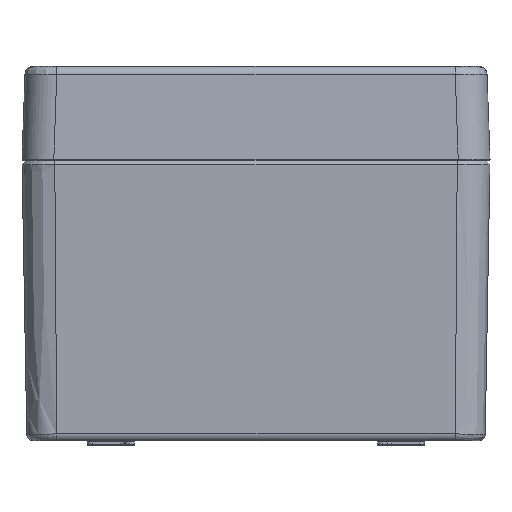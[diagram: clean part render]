
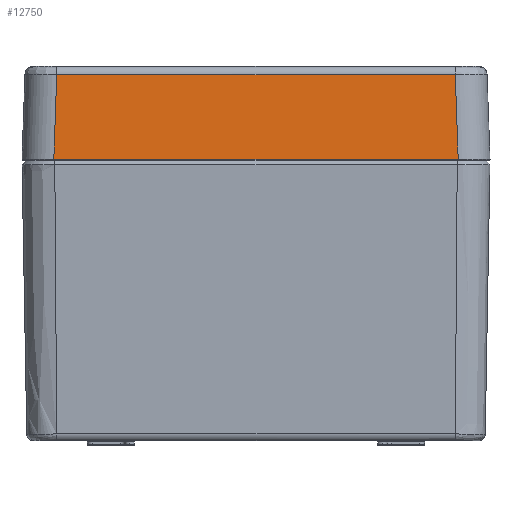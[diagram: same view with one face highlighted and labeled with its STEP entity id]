
A CAD part, left-side view. The second image highlights one B-rep face of the part: STEP entity #12750.
In plain terms, the highlighted planar face has unit normal (-0.999, 0, 0.035).
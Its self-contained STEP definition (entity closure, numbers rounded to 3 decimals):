
#236 = ORIENTED_EDGE ( 'NONE', *, *, #11024, .F. ) ;
#722 = ORIENTED_EDGE ( 'NONE', *, *, #1595, .T. ) ;
#744 = VERTEX_POINT ( 'NONE', #23124 ) ;
#1590 = DIRECTION ( 'NONE',  ( -0.999, 0., 0.035 ) ) ;
#1595 = EDGE_CURVE ( 'NONE', #744, #21366, #9349, .T. ) ;
#3633 = PLANE ( 'NONE',  #9264 ) ;
#4383 = DIRECTION ( 'NONE',  ( -0.035, 0.035, -0.999 ) ) ;
#5839 = DIRECTION ( 'NONE',  ( 0.035, 0., 0.999 ) ) ;
#6196 = CARTESIAN_POINT ( 'NONE',  ( -79.651, -42.855, 10. ) ) ;
#6464 = CARTESIAN_POINT ( 'NONE',  ( -79.993, 0., 0.207 ) ) ;
#6843 = VERTEX_POINT ( 'NONE', #9504 ) ;
#6918 = VECTOR ( 'NONE', #4383, 1000. ) ;
#6929 = CARTESIAN_POINT ( 'NONE',  ( -79.993, -43.197, 0.207 ) ) ;
#7259 = LINE ( 'NONE', #9526, #21510 ) ;
#8247 = CARTESIAN_POINT ( 'NONE',  ( -79.362, 42.566, 18.263 ) ) ;
#8640 = LINE ( 'NONE', #6196, #11474 ) ;
#9264 = AXIS2_PLACEMENT_3D ( 'NONE', #23982, #1590, #5839 ) ;
#9349 = LINE ( 'NONE', #6464, #15349 ) ;
#9504 = CARTESIAN_POINT ( 'NONE',  ( -79.362, -42.566, 18.263 ) ) ;
#9526 = CARTESIAN_POINT ( 'NONE',  ( -79.362, 0.083, 18.263 ) ) ;
#9999 = ORIENTED_EDGE ( 'NONE', *, *, #11975, .T. ) ;
#11024 = EDGE_CURVE ( 'NONE', #14513, #6843, #7259, .T. ) ;
#11474 = VECTOR ( 'NONE', #12348, 1000. ) ;
#11975 = EDGE_CURVE ( 'NONE', #14513, #744, #18948, .T. ) ;
#12348 = DIRECTION ( 'NONE',  ( -0.035, -0.035, -0.999 ) ) ;
#12750 = ADVANCED_FACE ( 'NONE', ( #20169 ), #3633, .T. ) ;
#14405 = EDGE_LOOP ( 'NONE', ( #9999, #722, #22929, #236 ) ) ;
#14513 = VERTEX_POINT ( 'NONE', #16478 ) ;
#15349 = VECTOR ( 'NONE', #21827, 1000. ) ;
#16478 = CARTESIAN_POINT ( 'NONE',  ( -79.362, 42.566, 18.263 ) ) ;
#17973 = EDGE_CURVE ( 'NONE', #6843, #21366, #8640, .T. ) ;
#18948 = LINE ( 'NONE', #8247, #6918 ) ;
#20169 = FACE_OUTER_BOUND ( 'NONE', #14405, .T. ) ;
#21366 = VERTEX_POINT ( 'NONE', #6929 ) ;
#21510 = VECTOR ( 'NONE', #21751, 1000. ) ;
#21751 = DIRECTION ( 'NONE',  ( 0., -1., 0. ) ) ;
#21827 = DIRECTION ( 'NONE',  ( 0., -1., 0. ) ) ;
#22929 = ORIENTED_EDGE ( 'NONE', *, *, #17973, .F. ) ;
#23124 = CARTESIAN_POINT ( 'NONE',  ( -79.993, 43.197, 0.207 ) ) ;
#23982 = CARTESIAN_POINT ( 'NONE',  ( -80., 0., 0. ) ) ;
